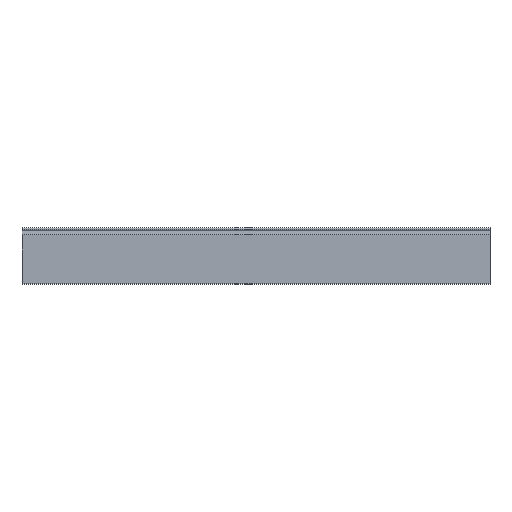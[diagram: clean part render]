
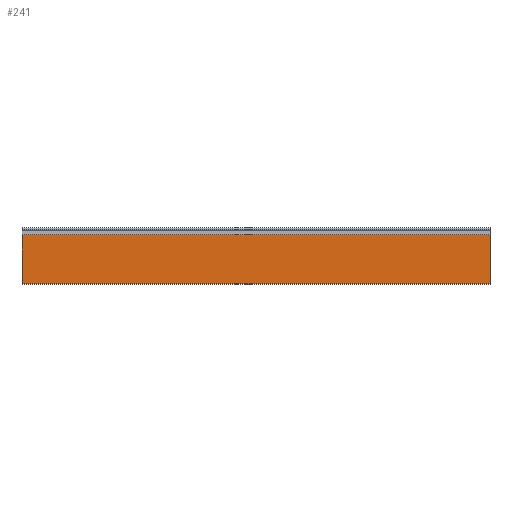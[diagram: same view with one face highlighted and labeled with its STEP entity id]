
A CAD part, top view. The second image highlights one B-rep face of the part: STEP entity #241.
In plain terms, the highlighted planar face has unit normal (0, 0, 1).
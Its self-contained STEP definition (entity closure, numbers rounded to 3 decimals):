
#30 = FACE_OUTER_BOUND ( 'NONE', #348, .T. ) ;
#71 = VECTOR ( 'NONE', #795, 1000. ) ;
#72 = LINE ( 'NONE', #794, #71 ) ;
#73 = VECTOR ( 'NONE', #793, 1000. ) ;
#74 = LINE ( 'NONE', #792, #73 ) ;
#202 = LINE ( 'NONE', #1298, #205 ) ;
#205 = VECTOR ( 'NONE', #1299, 1000. ) ;
#241 = ADVANCED_FACE ( 'NONE', ( #30 ), #536, .F. ) ;
#348 = EDGE_LOOP ( 'NONE', ( #885, #883, #882, #881 ) ) ;
#474 = VERTEX_POINT ( 'NONE', #683 ) ;
#477 = VERTEX_POINT ( 'NONE', #686 ) ;
#485 = VERTEX_POINT ( 'NONE', #694 ) ;
#508 = VERTEX_POINT ( 'NONE', #717 ) ;
#532 = CARTESIAN_POINT ( 'NONE',  ( 525., -12.164, 4.05 ) ) ;
#536 = PLANE ( 'NONE',  #1131 ) ;
#541 = DIRECTION ( 'NONE',  ( 0., 0., -1. ) ) ;
#542 = DIRECTION ( 'NONE',  ( 0., 1., 0. ) ) ;
#683 = CARTESIAN_POINT ( 'NONE',  ( -525., -121.663, 4.05 ) ) ;
#686 = CARTESIAN_POINT ( 'NONE',  ( -525., -12.164, 4.05 ) ) ;
#694 = CARTESIAN_POINT ( 'NONE',  ( 525., -12.164, 4.05 ) ) ;
#717 = CARTESIAN_POINT ( 'NONE',  ( 525., -121.663, 4.05 ) ) ;
#759 = CARTESIAN_POINT ( 'NONE',  ( -525., -12.164, 4.05 ) ) ;
#768 = DIRECTION ( 'NONE',  ( 0., -1., 0. ) ) ;
#792 = CARTESIAN_POINT ( 'NONE',  ( 525., -12.164, 4.05 ) ) ;
#793 = DIRECTION ( 'NONE',  ( -1., 0., 0. ) ) ;
#794 = CARTESIAN_POINT ( 'NONE',  ( 525., -121.663, 4.05 ) ) ;
#795 = DIRECTION ( 'NONE',  ( -1., 0., 0. ) ) ;
#881 = ORIENTED_EDGE ( 'NONE', *, *, #1036, .T. ) ;
#882 = ORIENTED_EDGE ( 'NONE', *, *, #1116, .F. ) ;
#883 = ORIENTED_EDGE ( 'NONE', *, *, #1037, .F. ) ;
#885 = ORIENTED_EDGE ( 'NONE', *, *, #1024, .T. ) ;
#979 = LINE ( 'NONE', #759, #982 ) ;
#982 = VECTOR ( 'NONE', #768, 1000. ) ;
#1024 = EDGE_CURVE ( 'NONE', #477, #474, #979, .T. ) ;
#1036 = EDGE_CURVE ( 'NONE', #485, #477, #74, .T. ) ;
#1037 = EDGE_CURVE ( 'NONE', #508, #474, #72, .T. ) ;
#1116 = EDGE_CURVE ( 'NONE', #485, #508, #202, .T. ) ;
#1131 = AXIS2_PLACEMENT_3D ( 'NONE', #532, #541, #542 ) ;
#1298 = CARTESIAN_POINT ( 'NONE',  ( 525., -12.164, 4.05 ) ) ;
#1299 = DIRECTION ( 'NONE',  ( 0., -1., 0. ) ) ;
